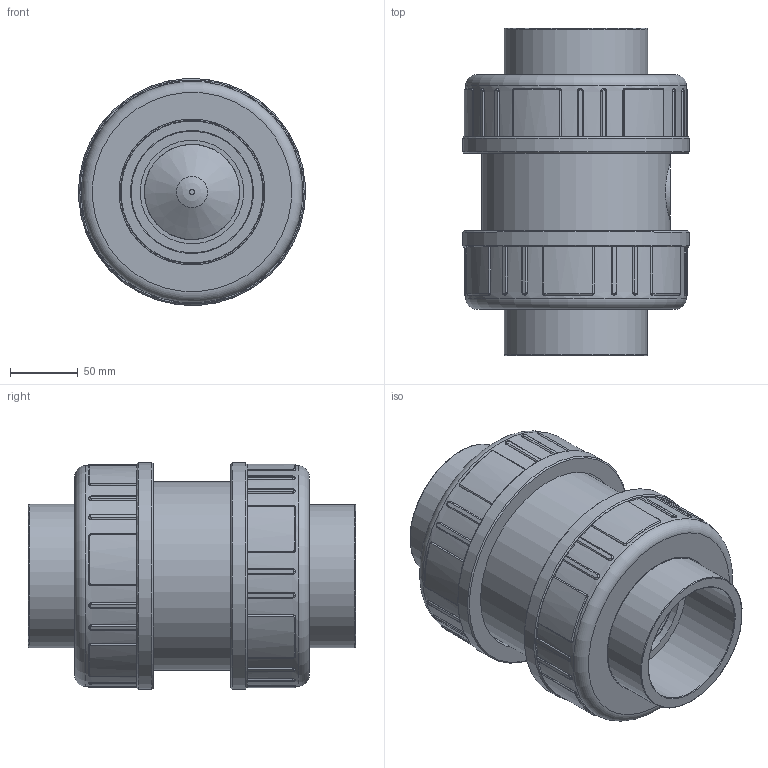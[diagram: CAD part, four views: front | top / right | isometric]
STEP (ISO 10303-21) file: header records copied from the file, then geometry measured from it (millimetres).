
FILE_DESCRIPTION(/* description */ (''),/* implementation_level */ '2;1');
FILE_NAME(/* name */ 'C:\Users\POLYPIPE\Desktop\DATASET INVENTOR\LIBRERIA EFFAST\3D_VALVOLE\3D_VALVOLE NON RITORNO\3D_CV\3D_CDRCVD\3D_CDRCVD0900.stp',/* time_stamp */ '2018-01-24T16:14:43+01:00',/* author */ ('POLYPIPE'),/* organization */ (''),/* preprocessor_version */ 'ST-DEVELOPER v16.1',/* originating_system */ 'Autodesk Inventor 2016',/* authorisation */ '');
FILE_SCHEMA (('CONFIG_CONTROL_DESIGN'));
Products named in the file (1): 3D_CDRCVD0900
Bounding box: 167.96 x 242 x 167.96 mm (x, y, z)
Volume: 2115119.7 mm3; surface area: 441883 mm2
Topology: 3 solids, 4 shells, 523 faces, 1298 edges, 814 vertices
Faces by surface type: plane 167, cylinder 152, bspline 146, torus 45, cone 13
Full cylindrical faces by diameter (mm): 74 x1, 76.6 x2, 76.8 x2, 81.4 x1, 81.6 x1, 81.8 x1, 90 x2, 91.8 x1, 93.1 x1, 93.6 x1, 95 x1, 106.2 x2, 108 x2, 108.2 x2, 113.2 x1, 120.6 x1, 121.7 x1, 123.5 x1, 124.5 x1, 133.1 x2, 139.5 x1, 142.5 x2, 163.5 x2, 168 x2
Entity records: 59922 total; most frequent: CARTESIAN_POINT 47852, ORIENTED_EDGE 2440, DIRECTION 2169, EDGE_CURVE 1218, AXIS2_PLACEMENT_3D 822, VERTEX_POINT 807, EDGE_LOOP 635, STYLED_ITEM 526
